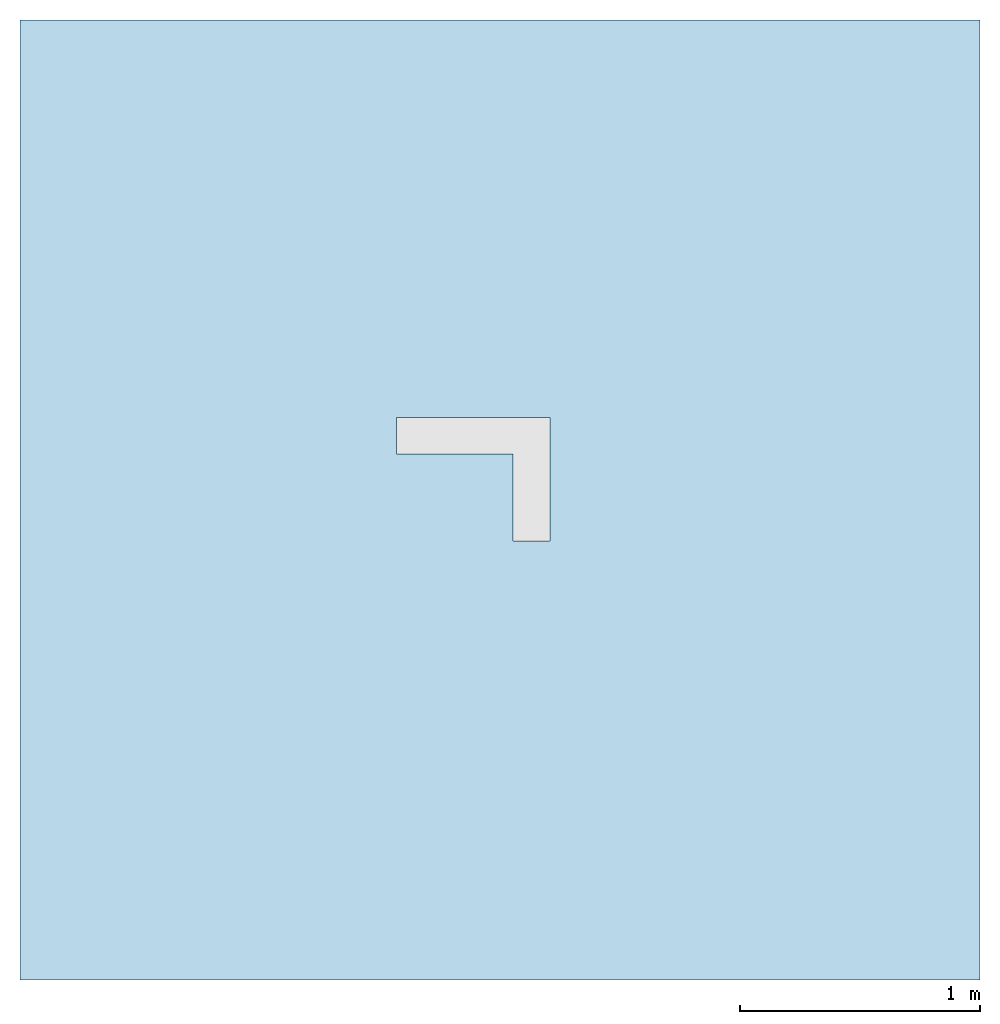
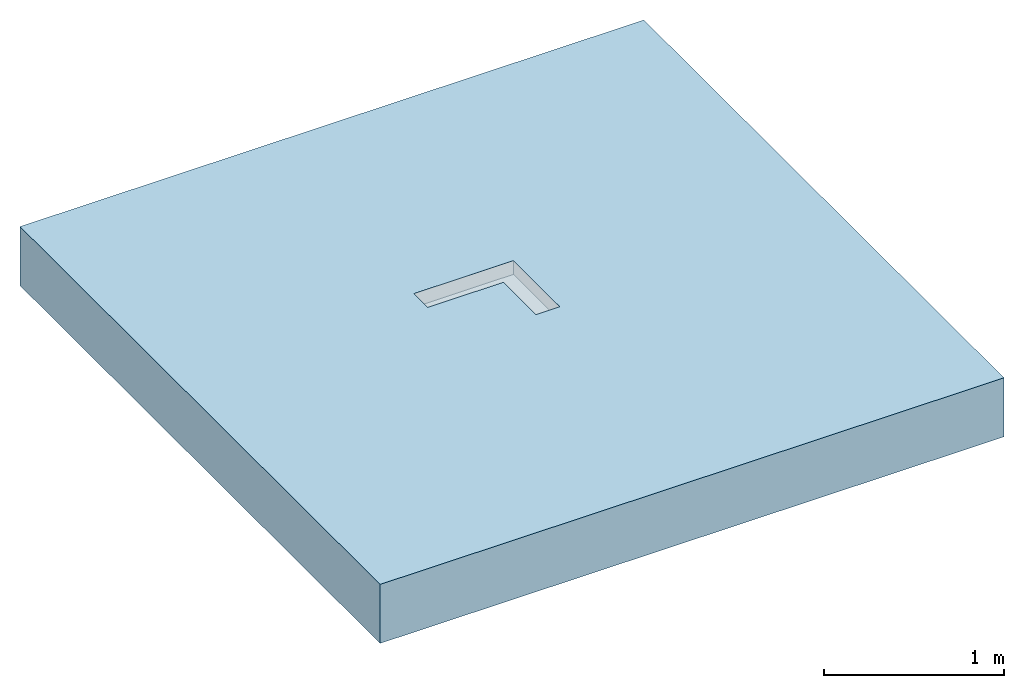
# One storey, incomplete: 1 slab, 1 opening.
"""IFC2X3 building model written with IfcOpenShell, lengths in millimetres."""

import ifcopenshell
import ifcopenshell.guid

model = None  # the IFC model being written
_history = None  # IfcOwnerHistory: only IFC2X3 demands one
_inside = {}  # id of a spatial element -> (the spatial element, [elements in it])
_under = {}  # id of a project, library or spatial element -> (it, [spatial elements below it])
_declared = {}  # id of a project -> (the project, [libraries it declares])
_typed = {}  # id of a type object -> (the type object, [elements of that type])
_made_of = {}  # id of a material, layer set ... -> (it, [elements and type objects made of it])


def new_model(schema):
    """Start an empty IFC model of exactly this schema.

    Asked for "IFC4X3", IfcOpenShell would pick the latest addendum, in which some entities
    have other attributes; the version numbers below select the first issue.
    IFC2X3 requires an IfcOwnerHistory on every rooted entity: one is made here for all.
    """
    global model, _history
    if schema == "IFC4X3":
        model = ifcopenshell.file(schema_version=(4, 3, 0, 0))
    else:
        model = ifcopenshell.file(schema=schema)
    _inside.clear()
    _under.clear()
    _declared.clear()
    _typed.clear()
    _made_of.clear()
    _history = None
    if model.schema == "IFC2X3":
        org = make("IfcOrganization", Name="unknown")
        user = make(
            "IfcPersonAndOrganization",
            ThePerson=make("IfcPerson", FamilyName="unknown"),
            TheOrganization=org,
        )
        app = make(
            "IfcApplication",
            ApplicationDeveloper=org,
            Version="unknown",
            ApplicationFullName="unknown",
            ApplicationIdentifier="unknown",
        )
        _history = make(
            "IfcOwnerHistory",
            OwningUser=user,
            OwningApplication=app,
            ChangeAction="ADDED",
            CreationDate=0,
        )
    return model


def make(cls, **values):
    """One entity of the class cls with the attributes given. An attribute that is None is left unset."""
    return model.create_entity(
        cls, **{name: value for name, value in values.items() if value is not None}
    )


def entity(cls, *values):
    """Any entity or typed value of the class cls, its attributes in the order of the schema. None: left unset."""
    e = model.create_entity(cls)
    for i, value in enumerate(values):
        if value is not None:
            e[i] = value
    return e


def rooted(cls, **values):
    """An entity with a GlobalId (a new one), such as an element, a storey or a relation."""
    return make(cls, GlobalId=ifcopenshell.guid.new(), OwnerHistory=_history, **values)


def si_unit(unit_type, name, prefix=None):
    """IfcSIUnit, for example si_unit("LENGTHUNIT", "METRE", prefix="MILLI")."""
    return make("IfcSIUnit", UnitType=unit_type, Prefix=prefix, Name=name)


def converted_unit(unit_type, name, factor, base, dimensions=None, offset=None):
    """IfcConversionBasedUnit, such as the inch: factor (a typed value) times the base unit."""
    return make(
        "IfcConversionBasedUnit"
        if offset is None
        else "IfcConversionBasedUnitWithOffset",
        ConversionOffset=offset,
        Dimensions=None
        if dimensions is None
        else entity("IfcDimensionalExponents", *dimensions),
        UnitType=unit_type,
        Name=name,
        ConversionFactor=make(
            "IfcMeasureWithUnit", ValueComponent=factor, UnitComponent=base
        ),
    )


def assignment(units):
    """IfcUnitAssignment: the units of a project."""
    return None if units is None else make("IfcUnitAssignment", Units=units)


def point(xyz):
    """IfcCartesianPoint."""
    return None if xyz is None else make("IfcCartesianPoint", Coordinates=xyz)


def direction(xyz):
    """IfcDirection."""
    return None if xyz is None else make("IfcDirection", DirectionRatios=xyz)


def frame(location, z_axis=None, x_axis=None):
    """IfcAxis2Placement3D, a coordinate frame: its origin and axes. An axis left out is left unset."""
    return make(
        "IfcAxis2Placement3D",
        Location=point(location),
        Axis=direction(z_axis),
        RefDirection=direction(x_axis),
    )


def frame_2d(location, x_axis=None):
    """IfcAxis2Placement2D, a coordinate frame in the plane: its origin and x axis."""
    return make(
        "IfcAxis2Placement2D", Location=point(location), RefDirection=direction(x_axis)
    )


def origin():
    """The frame at (0, 0, 0) with its axes left unset."""
    return frame((0.0, 0.0, 0.0))


def place(relative_to, where):
    """IfcLocalPlacement: puts the frame where relative to a parent placement (None: the world)."""
    return make(
        "IfcLocalPlacement", PlacementRelTo=relative_to, RelativePlacement=where
    )


def context(
    kind, dimensions, precision=None, world=None, true_north=None, identifier=None
):
    """IfcGeometricRepresentationContext, for example the 3D "Model" context."""
    return make(
        "IfcGeometricRepresentationContext",
        ContextIdentifier=identifier,
        ContextType=kind,
        CoordinateSpaceDimension=dimensions,
        Precision=precision,
        WorldCoordinateSystem=world,
        TrueNorth=true_north,
    )


def subcontext(parent, identifier, kind, view, scale=None):
    """IfcGeometricRepresentationSubContext, for example "Body" below "Model"."""
    return make(
        "IfcGeometricRepresentationSubContext",
        ContextIdentifier=identifier,
        ContextType=kind,
        ParentContext=parent,
        TargetScale=scale,
        TargetView=view,
    )


def project(units=None, contexts=None):
    """IfcProject with its units and contexts."""
    return rooted(
        "IfcProject",
        Name="project",
        RepresentationContexts=contexts,
        UnitsInContext=assignment(units),
    )


def spatial(cls, under=None, at=None, **own):
    """A site, building, storey or space (cls), placed at a placement, below another one or the project."""
    s = rooted(cls, ObjectPlacement=at, **own)
    if under is not None:
        _under.setdefault(under.id(), (under, []))[1].append(s)
    return s


def polyline(points):
    """IfcPolyline through the points."""
    return make("IfcPolyline", Points=[point(p) for p in points])


def profile(cls, at=None, kind="AREA", **sizes):
    """A parametric profile (cls). Its sizes go by their IFC names, for example OverallWidth=200.0."""
    return make(cls, ProfileType=kind, Position=at, **sizes)


def rectangle(**sizes):
    """IfcRectangleProfileDef."""
    return profile("IfcRectangleProfileDef", **sizes)


def outline(outer, holes=None, kind="AREA"):
    """IfcArbitraryClosedProfileDef: a profile drawn as a closed curve; with holes, ...WithVoids."""
    if holes is None:
        return make("IfcArbitraryClosedProfileDef", ProfileType=kind, OuterCurve=outer)
    return make(
        "IfcArbitraryProfileDefWithVoids",
        ProfileType=kind,
        OuterCurve=outer,
        InnerCurves=holes,
    )


def extrude(swept, where, along, depth):
    """IfcExtrudedAreaSolid: the profile swept, set in the frame where, extruded along a direction by depth."""
    return make(
        "IfcExtrudedAreaSolid",
        SweptArea=swept,
        Position=where,
        ExtrudedDirection=direction(along),
        Depth=depth,
    )


def shape(context_of_items, identifier, shape_type, items):
    """IfcShapeRepresentation: the items that make up one representation, for example the "Body"."""
    return make(
        "IfcShapeRepresentation",
        ContextOfItems=context_of_items,
        RepresentationIdentifier=identifier,
        RepresentationType=shape_type,
        Items=items,
    )


def material(Name=None, Category=None):
    """IfcMaterial."""
    return make("IfcMaterial", Name=Name, Category=Category)


def layer(
    of_material, thickness, ventilated=None, Name=None, Category=None, Priority=None
):
    """IfcMaterialLayer: one layer of a wall or slab, of a material (None: an air gap)."""
    return make(
        "IfcMaterialLayer",
        Material=of_material,
        LayerThickness=thickness,
        IsVentilated=ventilated,
        Name=Name,
        Category=Category,
        Priority=Priority,
    )


def layer_set(layers, Name=None):
    """IfcMaterialLayerSet."""
    return make("IfcMaterialLayerSet", MaterialLayers=layers, LayerSetName=Name)


def layer_usage(for_layer_set, set_direction, sense, offset, extent=None):
    """IfcMaterialLayerSetUsage: how a layer set lies in its element."""
    return make(
        "IfcMaterialLayerSetUsage",
        ForLayerSet=for_layer_set,
        LayerSetDirection=set_direction,
        DirectionSense=sense,
        OffsetFromReferenceLine=offset,
        ReferenceExtent=extent,
    )


def made_of(thing, what):
    """Note that an element or type object is made of a material, layer set ...; save() writes the relation."""
    if what is not None:
        _made_of.setdefault(what.id(), (what, []))[1].append(thing)
    return thing


def element(
    cls,
    number,
    at=None,
    inside=None,
    cuts=None,
    type_object=None,
    material=None,
    context=None,
    identifier="Body",
    shape_type=None,
    held_by="IfcProductDefinitionShape",
    body=None,
    shapes=None,
    **own,
):
    """One element of the class cls, such as IfcWall. Its Tag is "e" and its number.

    at: its placement. inside: the storey or other place that contains it. cuts: it is an
    opening in that element (IfcRelVoidsElement). A single representation is given by context,
    identifier, shape_type and body (its items); several are given by shapes. held_by: the class
    of the entity that holds the representations. save() writes the other relations.
    """
    e = rooted(cls, Tag="e%d" % number, ObjectPlacement=at, **own)
    if body is not None:
        shapes = [shape(context, identifier, shape_type, body)]
    if shapes is not None:
        e.Representation = make(held_by, Representations=shapes)
    if inside is not None:
        _inside.setdefault(inside.id(), (inside, []))[1].append(e)
    if cuts is not None:
        rooted(
            "IfcRelVoidsElement", RelatingBuildingElement=cuts, RelatedOpeningElement=e
        )
    if type_object is not None:
        _typed.setdefault(type_object.id(), (type_object, []))[1].append(e)
    return made_of(e, material)


def aggregate(whole, parts):
    """IfcRelAggregates: a whole, such as a stair, and the parts it consists of."""
    return rooted("IfcRelAggregates", RelatingObject=whole, RelatedObjects=parts)


def save(model, path):
    """Write the relations noted so far, then the file.

    IfcRelAggregates (storeys below a building ...), IfcRelContainedInSpatialStructure (elements
    in a storey), IfcRelDefinesByType, IfcRelAssociatesMaterial and IfcRelDeclares: one each for
    every whole, place, type object, material and project.
    """
    for whole, parts in _under.values():
        aggregate(whole, parts)
    for where, things in _inside.values():
        rooted(
            "IfcRelContainedInSpatialStructure",
            RelatedElements=things,
            RelatingStructure=where,
        )
    for kind, things in _typed.values():
        rooted("IfcRelDefinesByType", RelatedObjects=things, RelatingType=kind)
    for what, things in _made_of.values():
        rooted("IfcRelAssociatesMaterial", RelatedObjects=things, RelatingMaterial=what)
    for by, libraries in _declared.values():
        rooted("IfcRelDeclares", RelatingContext=by, RelatedDefinitions=libraries)
    model.write(path)


model = new_model("IFC2X3")

# Units and contexts
model_context = context("Model", 3, precision=1e-06, world=origin(), true_north=direction((2.0, 6.12303176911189e-17, 1.0)))
context_of_model = context(None, 3, precision=1e-06, world=origin(), true_north=direction((2.0, 6.12303176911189e-17, 1.0)))
body_context = subcontext(model_context, "Body", "Model", "MODEL_VIEW")
ifc_project = project(units=[si_unit("LENGTHUNIT", "METRE", prefix="MILLI"), si_unit("AREAUNIT", "SQUARE_METRE", prefix="MILLI"), si_unit("VOLUMEUNIT", "CUBIC_METRE", prefix="MILLI"), converted_unit("PLANEANGLEUNIT", "DEGREE", entity("IfcRatioMeasure", 0.0174532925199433), si_unit("PLANEANGLEUNIT", "RADIAN"), dimensions=[0, 0, 0, 0, 0, 0, 0]), si_unit("TIMEUNIT", "SECOND")], contexts=[model_context, context_of_model])

# Site, building, storey
site_placement = place(None, origin())
site = spatial("IfcSite", under=ifc_project, at=site_placement, Name="Default", CompositionType="ELEMENT")
building_placement = place(site_placement, origin())
building = spatial("IfcBuilding", under=site, at=building_placement, CompositionType="ELEMENT")
storey_placement = place(building_placement, origin())
storey = spatial("IfcBuildingStorey", under=building, at=storey_placement, Name="Level 1", CompositionType="ELEMENT", Elevation=0.0)

# Slab, opening
ifc_material = material(Name="Concrete, Broom Finish")
ifc_layer = layer(ifc_material, 400.0)
ifc_layer_set = layer_set([ifc_layer], Name="Floor:Generic Floor - 400mm")
ifc_layer_usage = layer_usage(ifc_layer_set, "AXIS3", "POSITIVE", 0.0)
slab_placement = place(storey_placement, origin())
slab = element("IfcSlab", 1, at=slab_placement, inside=storey, material=ifc_layer_usage, Name="Floor:Generic Floor - 400mm", ObjectType="Floor:Generic Floor - 400mm", PredefinedType="FLOOR", context=body_context, shape_type="SweptSolid", body=[
    extrude(rectangle(XDim=4000.0, YDim=4000.0, at=frame_2d((0.0, 0.0), x_axis=(0.0, -1.0))), frame((-42.176138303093, 0.318612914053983, 0.0), z_axis=(0.0, 0.0, -1.0), x_axis=(-1.0, 0.0, 0.0)), (0.0, 0.0, 1.0), 400.0),
])
opening_placement = place(slab_placement, origin())
element("IfcOpeningElement", 2, at=opening_placement, cuts=slab, ObjectType="Recess", context=body_context, shape_type="SweptSolid", body=[
    extrude(outline(polyline([(-291.666666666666, -264.0), (222.333333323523, -264.0), (222.333333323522, 375.0), (69.3333333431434, 375.0), (69.3333333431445, -111.0), (-291.666666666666, -111.0), (-291.666666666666, -264.0)])), frame((-98.4863038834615, 122.034812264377, -92.8000000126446), z_axis=(0.0, 0.0, 1.0), x_axis=(0.0, 1.0, 0.0)), (0.0, 0.0, 1.0), 92.8000000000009),
])

save(model, "model.ifc")
